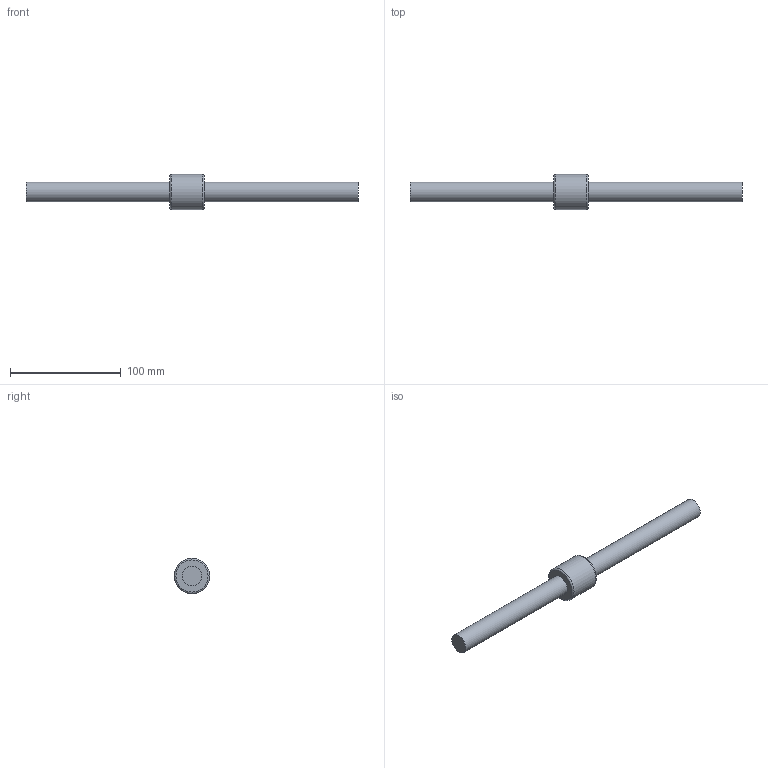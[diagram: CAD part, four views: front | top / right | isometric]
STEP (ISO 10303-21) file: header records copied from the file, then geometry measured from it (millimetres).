
FILE_DESCRIPTION((''),'2;1');
FILE_NAME('D:\製品 (図面)\カタログ用3D\ネジ関連\STEP形式\TMS\TMS18.stp','2010-06-02T15:31:53',('Tsuchiya'),(''),'Autodesk Inventor 10','Autodesk Inventor 10','');
FILE_SCHEMA(('AUTOMOTIVE_DESIGN { 1 0 10303 214 1 1 1 1 }'));
Length unit declared in the file: millimetre
Products named in the file (3): TMS18; TMS181; TMS182
Assembly tree (2 placements, depth 2):
  TMS18
    TMS181
    TMS182
Bounding box: 300 x 32 x 32 mm (x, y, z)
Volume: 93288.8 mm3; surface area: 23311.1 mm2
Topology: 2 solids, 2 shells, 9 faces, 13 edges, 8 vertices
Faces by surface type: plane 4, cylinder 3, torus 2
Full cylindrical faces by diameter (mm): 18 x2, 32 x1
Entity records: 254 total; most frequent: DIRECTION 44, CARTESIAN_POINT 30, AXIS2_PLACEMENT_3D 22, ORIENTED_EDGE 16, EDGE_LOOP 16, FACE_OUTER_BOUND 9, ADVANCED_FACE 9, VERTEX_POINT 8
